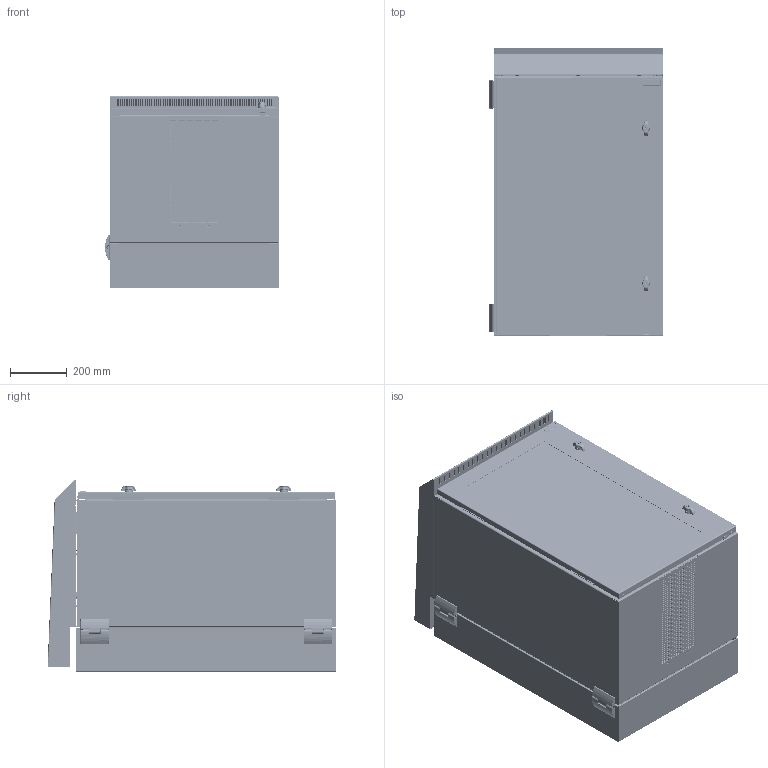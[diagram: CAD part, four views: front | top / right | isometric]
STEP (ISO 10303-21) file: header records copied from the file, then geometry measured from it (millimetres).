
FILE_DESCRIPTION (( 'STEP AP203' ), '1' );
FILE_NAME ('pthw362424gf.STEP', '2011-12-01T19:23:12', ( 'Hoffman User' ), ( 'Hoffman Enclosures' ), 'SwSTEP 2.0', 'SolidWorks 2010', '' );
FILE_SCHEMA (( 'CONFIG_CONTROL_DESIGN' ));
Products named in the file (69): pthw362424gf; 89078330_compressed gasket; 89078329; 89060190; 89060191; 89078352_Compressed; 89071699_Installed Config; 89078333; 89078332; 89078331; 89070533; 89071213; 89076786_89076786; 89076784_Compressed wdw gasket; 89076783_89076783; 60127101_60127101; 60100041_60100041; 87931527_87931527; 87931368_SLEEVE; 99401225; 89076875; 89076788_Compressed; 89071927_FOR 16GA; 99407418; 87794350_87794350; 87556214; 87922656; 87928600; 64138001; 89060606_89060606; 89072123_87931339; 87790199; 60127214_601272214; 87790201_87790201; 60127135_Installed postion; 60127199_60127199; 56906712_56906712; 89066980; 89066979_WITH STAKE; 89066976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
Assembly tree (165 placements, depth 5):
  pthw362424gf
    89070550  x2
      89056327
      89070549
    60127214_601272214  x2
      60127135_Installed postion
      87790201_87790201
      56906712_56906712
      60127199_60127199
    89060214  x2
    10-1000-38
    89072123_87931339  x2
    89070735
      16111011_INSTALLED .144 THICKNESS  x8
      89070737_VENT, BACK; 600
      89070886
      89075890  x8
    89070565_SOLAR SHIELD 6060
      89070564_PLATE, BACK; 600
      89070563_Shield Wrapper 600
    89078333
      99401225  x20
      89078332
      89070533
      89078331
      60100041_60100041  x2
        87931527_87931527
        87931368_SLEEVE
      89071213
    89066980  x2
      89066976
      89066979_WITH STAKE
      87540581
    87559481  x2
    87790199  x2
    89070551  x4
    89072452
    89066978  x2
      87540581
      89066977
    89060212  x2
    89078330_compressed gasket
      89060190  x2
      89060191  x2
      89071699_Installed Config  x7
      89078329
      89078352_Compressed
      60100041_60100041
        87931527_87931527
        87931368_SLEEVE
    89066975  x2
    89071543_89071543  x2
    89060606_89060606  x2
    89076786_89076786
      87556214  x6
      87922656  x12
      87928600
      87794350_87794350
      64138001  x2
      99407418  x2
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Bounding box: 616 x 1022.51 x 679.39 mm (x, y, z)
Volume: 10716933.2 mm3; surface area: 10148424.7 mm2
Topology: 277 solids, 297 shells, 12485 faces, 31588 edges, 19833 vertices
Faces by surface type: plane 5974, cylinder 4023, bspline 1205, cone 743, torus 432, sphere 108
Entity records: 305829 total; most frequent: CARTESIAN_POINT 111359, ORIENTED_EDGE 39482, DIRECTION 36378, EDGE_CURVE 19741, VERTEX_POINT 12574, AXIS2_PLACEMENT_3D 12539, LINE 11300, VECTOR 11300
